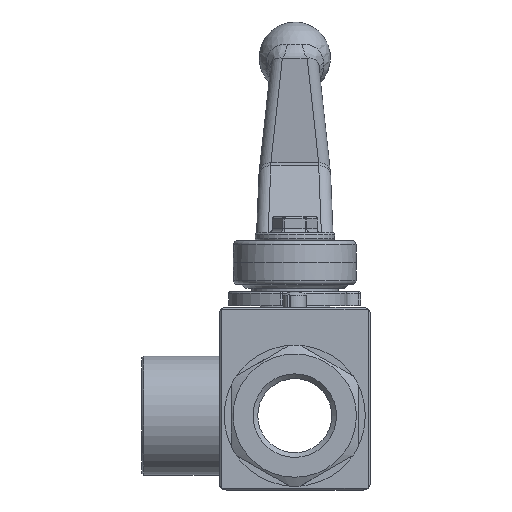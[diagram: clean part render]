
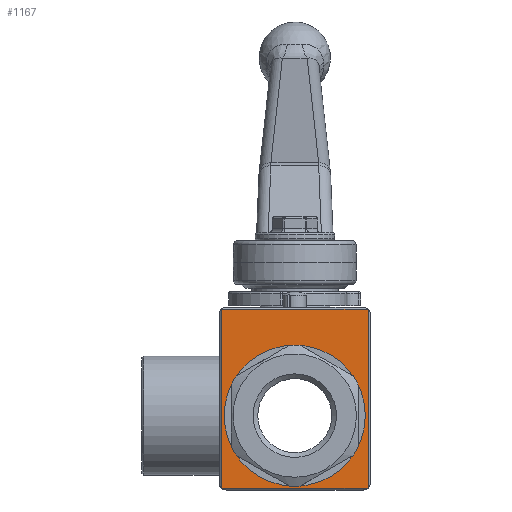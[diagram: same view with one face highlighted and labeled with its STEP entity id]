
A CAD part, front view. The second image highlights one B-rep face of the part: STEP entity #1167.
In plain terms, the highlighted planar face has unit normal (0, -1, 0).
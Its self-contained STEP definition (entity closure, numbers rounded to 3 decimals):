
#1167 = ADVANCED_FACE( '', ( #2329, #2330 ), #2331, .T. );
#2329 = FACE_OUTER_BOUND( '', #4295, .T. );
#2330 = FACE_BOUND( '', #4296, .T. );
#2331 = PLANE( '', #4297 );
#4295 = EDGE_LOOP( '', ( #7091, #7092, #7093, #7094, #7095, #7096, #7097, #7098 ) );
#4296 = EDGE_LOOP( '', ( #7099 ) );
#4297 = AXIS2_PLACEMENT_3D( '', #7100, #7101, #7102 );
#7091 = ORIENTED_EDGE( '', *, *, #8289, .T. );
#7092 = ORIENTED_EDGE( '', *, *, #8701, .T. );
#7093 = ORIENTED_EDGE( '', *, *, #8875, .T. );
#7094 = ORIENTED_EDGE( '', *, *, #8616, .T. );
#7095 = ORIENTED_EDGE( '', *, *, #8714, .T. );
#7096 = ORIENTED_EDGE( '', *, *, #8598, .T. );
#7097 = ORIENTED_EDGE( '', *, *, #8743, .T. );
#7098 = ORIENTED_EDGE( '', *, *, #8057, .T. );
#7099 = ORIENTED_EDGE( '', *, *, #8382, .T. );
#7100 = CARTESIAN_POINT( '', ( -19., -24.1, -18.7 ) );
#7101 = DIRECTION( '', ( 0., -1., 0. ) );
#7102 = DIRECTION( '', ( 0., 0., -1. ) );
#8057 = EDGE_CURVE( '', #9472, #9479, #9481, .T. );
#8289 = EDGE_CURVE( '', #9479, #9856, #9858, .T. );
#8382 = EDGE_CURVE( '', #9996, #9996, #9997, .T. );
#8598 = EDGE_CURVE( '', #10285, #10292, #10294, .T. );
#8616 = EDGE_CURVE( '', #10312, #10319, #10321, .T. );
#8701 = EDGE_CURVE( '', #9856, #10426, #10428, .T. );
#8714 = EDGE_CURVE( '', #10319, #10285, #10442, .T. );
#8743 = EDGE_CURVE( '', #10292, #9472, #10480, .T. );
#8875 = EDGE_CURVE( '', #10426, #10312, #10627, .T. );
#9472 = VERTEX_POINT( '', #11570 );
#9479 = VERTEX_POINT( '', #11579 );
#9481 = CIRCLE( '', #11581, 1.8 );
#9856 = VERTEX_POINT( '', #12263 );
#9858 = LINE( '', #12265, #12266 );
#9996 = VERTEX_POINT( '', #12624 );
#9997 = CIRCLE( '', #12625, 17.75 );
#10285 = VERTEX_POINT( '', #13089 );
#10292 = VERTEX_POINT( '', #13098 );
#10294 = CIRCLE( '', #13100, 1.8 );
#10312 = VERTEX_POINT( '', #13124 );
#10319 = VERTEX_POINT( '', #13133 );
#10321 = CIRCLE( '', #13135, 1.8 );
#10426 = VERTEX_POINT( '', #13427 );
#10428 = CIRCLE( '', #13429, 1.8 );
#10442 = LINE( '', #13449, #13450 );
#10480 = LINE( '', #13598, #13599 );
#10627 = LINE( '', #13895, #13896 );
#11570 = CARTESIAN_POINT( '', ( -18.445, -24.1, 26.8 ) );
#11579 = CARTESIAN_POINT( '', ( -18.5, -24.1, 26.745 ) );
#11581 = AXIS2_PLACEMENT_3D( '', #14453, #14454, #14455 );
#12263 = CARTESIAN_POINT( '', ( -18.5, -24.1, -18.145 ) );
#12265 = CARTESIAN_POINT( '', ( -18.5, -24.1, -18.7 ) );
#12266 = VECTOR( '', #14768, 1000. );
#12624 = CARTESIAN_POINT( '', ( 17.75, -24.1, 0. ) );
#12625 = AXIS2_PLACEMENT_3D( '', #14886, #14887, #14888 );
#13089 = CARTESIAN_POINT( '', ( 18.5, -24.1, 26.745 ) );
#13098 = CARTESIAN_POINT( '', ( 18.445, -24.1, 26.8 ) );
#13100 = AXIS2_PLACEMENT_3D( '', #15182, #15183, #15184 );
#13124 = CARTESIAN_POINT( '', ( 18.445, -24.1, -18.2 ) );
#13133 = CARTESIAN_POINT( '', ( 18.5, -24.1, -18.145 ) );
#13135 = AXIS2_PLACEMENT_3D( '', #15212, #15213, #15214 );
#13427 = CARTESIAN_POINT( '', ( -18.445, -24.1, -18.2 ) );
#13429 = AXIS2_PLACEMENT_3D( '', #15318, #15319, #15320 );
#13449 = CARTESIAN_POINT( '', ( 18.5, -24.1, 27.3 ) );
#13450 = VECTOR( '', #15330, 1000. );
#13598 = CARTESIAN_POINT( '', ( -19., -24.1, 26.8 ) );
#13599 = VECTOR( '', #15362, 1000. );
#13895 = CARTESIAN_POINT( '', ( 19., -24.1, -18.2 ) );
#13896 = VECTOR( '', #15480, 1000. );
#14453 = CARTESIAN_POINT( '', ( -17.2, -24.1, 25.5 ) );
#14454 = DIRECTION( '', ( 0., -1., 0. ) );
#14455 = DIRECTION( '', ( 0., 0., -1. ) );
#14768 = DIRECTION( '', ( 0., 0., -1. ) );
#14886 = CARTESIAN_POINT( '', ( 0., -24.1, 0. ) );
#14887 = DIRECTION( '', ( 0., 1., 0. ) );
#14888 = DIRECTION( '', ( 1., 0., 0. ) );
#15182 = CARTESIAN_POINT( '', ( 17.2, -24.1, 25.5 ) );
#15183 = DIRECTION( '', ( 0., -1., 0. ) );
#15184 = DIRECTION( '', ( 0., 0., -1. ) );
#15212 = CARTESIAN_POINT( '', ( 17.2, -24.1, -16.9 ) );
#15213 = DIRECTION( '', ( 0., -1., 0. ) );
#15214 = DIRECTION( '', ( 0., 0., -1. ) );
#15318 = CARTESIAN_POINT( '', ( -17.2, -24.1, -16.9 ) );
#15319 = DIRECTION( '', ( 0., -1., 0. ) );
#15320 = DIRECTION( '', ( 0., 0., -1. ) );
#15330 = DIRECTION( '', ( 0., 0., 1. ) );
#15362 = DIRECTION( '', ( -1., 0., 0. ) );
#15480 = DIRECTION( '', ( 1., 0., 0. ) );
